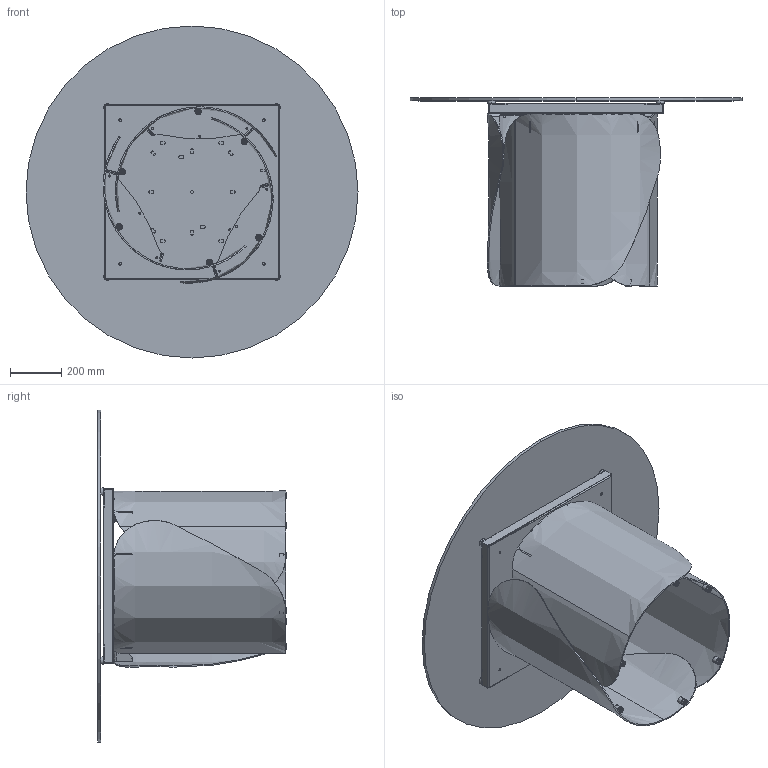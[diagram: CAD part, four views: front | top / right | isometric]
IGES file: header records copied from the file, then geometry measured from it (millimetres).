
Start section: SolidWorks IGES file using analytic representation for surfaces
Global section: file name: Y:\eforma\TECNICO\SOLIDWORKS\E-FORMA\1-TAVOLI\ONDA\02 parts\ON05G.IGS; native system: SolidWorks 2022; preprocessor: SolidWorks 2022; author: eforma.tech; date: 240806.152748; units: millimetre
Bounding box: 1300 x 738 x 1300 mm (x, y, z)
Volume: 26704487.4 mm3; surface area: 7343760.8 mm2
Topology: 62 solids, 62 shells, 1545 faces, 3651 edges, 2266 vertices
Faces by surface type: revolution 859, plane 626, bspline 60
